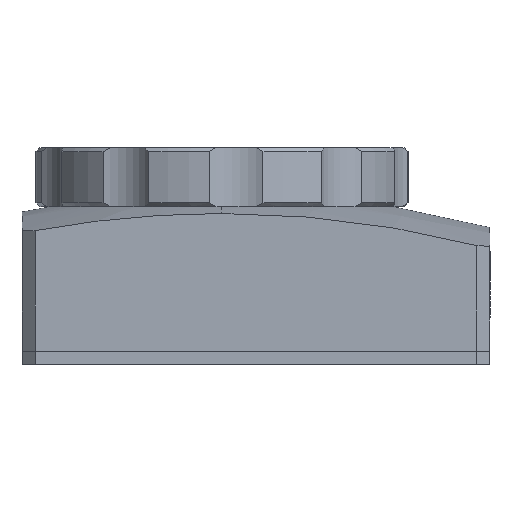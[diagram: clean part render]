
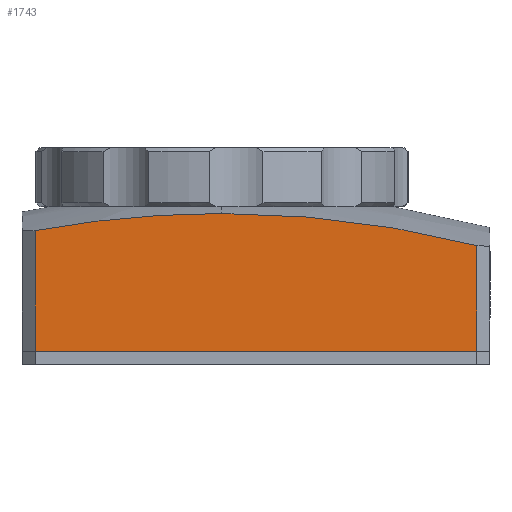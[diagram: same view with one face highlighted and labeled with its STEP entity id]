
A CAD part, left-side view. The second image highlights one B-rep face of the part: STEP entity #1743.
In plain terms, the highlighted planar face has unit normal (-1, 0, 0).
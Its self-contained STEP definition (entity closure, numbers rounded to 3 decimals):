
#134 = DIRECTION ( 'NONE',  ( 0., -1., 0. ) ) ;
#169 = ORIENTED_EDGE ( 'NONE', *, *, #5502, .T. ) ;
#269 = CARTESIAN_POINT ( 'NONE',  ( -15.85, 0., 11.03 ) ) ;
#336 = AXIS2_PLACEMENT_3D ( 'NONE', #4090, #5513, #2626 ) ;
#559 = ORIENTED_EDGE ( 'NONE', *, *, #2219, .T. ) ;
#626 = DIRECTION ( 'NONE',  ( -1., 0., 0. ) ) ;
#784 = CARTESIAN_POINT ( 'NONE',  ( -15.85, 34.7, 9.202 ) ) ;
#798 = AXIS2_PLACEMENT_3D ( 'NONE', #269, #4106, #2795 ) ;
#916 = CARTESIAN_POINT ( 'NONE',  ( -15.85, 1., 0. ) ) ;
#1136 = VERTEX_POINT ( 'NONE', #2394 ) ;
#1324 = ORIENTED_EDGE ( 'NONE', *, *, #4192, .T. ) ;
#1458 = VERTEX_POINT ( 'NONE', #916 ) ;
#1468 = VECTOR ( 'NONE', #5807, 1000. ) ;
#1680 = FACE_OUTER_BOUND ( 'NONE', #4063, .T. ) ;
#1695 = VERTEX_POINT ( 'NONE', #5435 ) ;
#1743 = ADVANCED_FACE ( 'NONE', ( #1680 ), #6043, .F. ) ;
#1884 = CARTESIAN_POINT ( 'NONE',  ( -15.85, 1., 11.03 ) ) ;
#2077 = ORIENTED_EDGE ( 'NONE', *, *, #5048, .T. ) ;
#2173 = LINE ( 'NONE', #4114, #4523 ) ;
#2219 = EDGE_CURVE ( 'NONE', #1136, #5134, #3015, .T. ) ;
#2394 = CARTESIAN_POINT ( 'NONE',  ( -15.85, 1., 8.057 ) ) ;
#2401 = VECTOR ( 'NONE', #134, 1000. ) ;
#2582 = CARTESIAN_POINT ( 'NONE',  ( -15.85, 20.45, -67.907 ) ) ;
#2626 = DIRECTION ( 'NONE',  ( 0., 0., -1. ) ) ;
#2714 = DIRECTION ( 'NONE',  ( 0., 0., -1. ) ) ;
#2793 = VERTEX_POINT ( 'NONE', #784 ) ;
#2795 = DIRECTION ( 'NONE',  ( 0., 0., -1. ) ) ;
#3015 = CIRCLE ( 'NONE', #3817, 78.414 ) ;
#3404 = CARTESIAN_POINT ( 'NONE',  ( -15.85, 20.45, 10.507 ) ) ;
#3504 = CIRCLE ( 'NONE', #336, 78.414 ) ;
#3817 = AXIS2_PLACEMENT_3D ( 'NONE', #2582, #626, #2714 ) ;
#4063 = EDGE_LOOP ( 'NONE', ( #1324, #169, #559, #5551, #2077 ) ) ;
#4090 = CARTESIAN_POINT ( 'NONE',  ( -15.85, 20.45, -67.907 ) ) ;
#4106 = DIRECTION ( 'NONE',  ( 1., 0., 0. ) ) ;
#4114 = CARTESIAN_POINT ( 'NONE',  ( -15.85, 34.7, 11.03 ) ) ;
#4192 = EDGE_CURVE ( 'NONE', #1695, #1458, #4514, .T. ) ;
#4280 = LINE ( 'NONE', #1884, #1468 ) ;
#4514 = LINE ( 'NONE', #5492, #2401 ) ;
#4523 = VECTOR ( 'NONE', #6053, 1000. ) ;
#5048 = EDGE_CURVE ( 'NONE', #2793, #1695, #2173, .T. ) ;
#5134 = VERTEX_POINT ( 'NONE', #3404 ) ;
#5435 = CARTESIAN_POINT ( 'NONE',  ( -15.85, 34.7, 0. ) ) ;
#5492 = CARTESIAN_POINT ( 'NONE',  ( -15.85, 0., 0. ) ) ;
#5502 = EDGE_CURVE ( 'NONE', #1458, #1136, #4280, .T. ) ;
#5513 = DIRECTION ( 'NONE',  ( -1., 0., 0. ) ) ;
#5551 = ORIENTED_EDGE ( 'NONE', *, *, #5653, .T. ) ;
#5653 = EDGE_CURVE ( 'NONE', #5134, #2793, #3504, .T. ) ;
#5807 = DIRECTION ( 'NONE',  ( 0., 0., 1. ) ) ;
#6043 = PLANE ( 'NONE',  #798 ) ;
#6053 = DIRECTION ( 'NONE',  ( 0., 0., -1. ) ) ;
